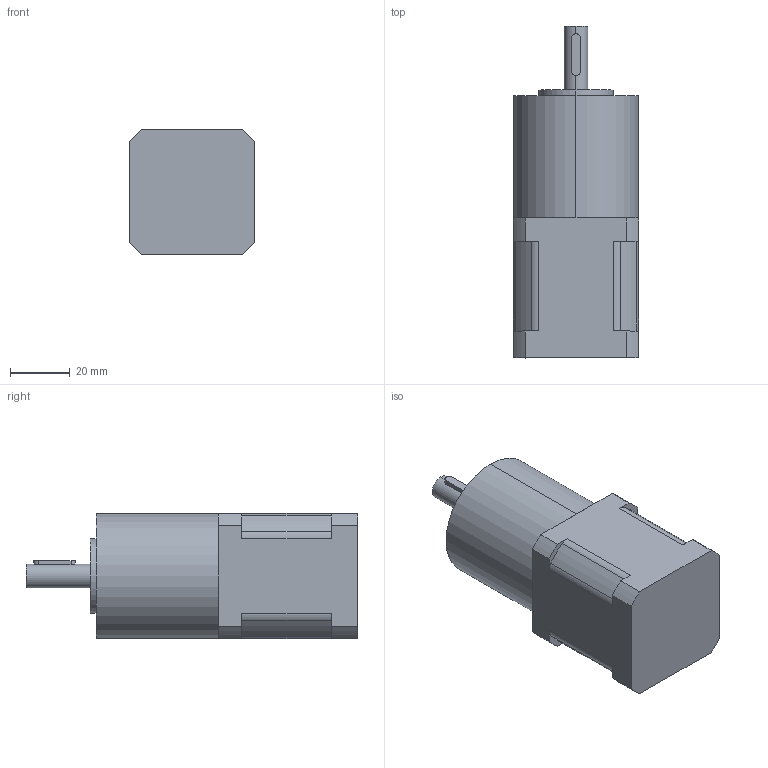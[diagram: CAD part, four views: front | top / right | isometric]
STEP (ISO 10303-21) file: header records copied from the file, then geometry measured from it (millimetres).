
FILE_DESCRIPTION (( 'STEP AP203' ), '1' );
FILE_NAME ('42CM06-RD05.STEP', '2021-04-23T09:27:19', ( 'Owner' ), ( 'Organization' ), 'SwSTEP 2.0', 'SolidWorks 2018', '' );
FILE_SCHEMA (( 'CONFIG_CONTROL_DESIGN' ));
Length unit declared in the file: millimetre
Products named in the file (1): 42CM06-RD05
Bounding box: 42 x 111.5 x 42 mm (x, y, z)
Volume: 138553.5 mm3; surface area: 16959.7 mm2
Topology: 1 solids, 1 shells, 51 faces, 135 edges, 88 vertices
Faces by surface type: cylinder 28, plane 23
Entity records: 1718 total; most frequent: CARTESIAN_POINT 327, DIRECTION 291, ORIENTED_EDGE 270, EDGE_CURVE 135, AXIS2_PLACEMENT_3D 108, VERTEX_POINT 88, LINE 75, VECTOR 75
